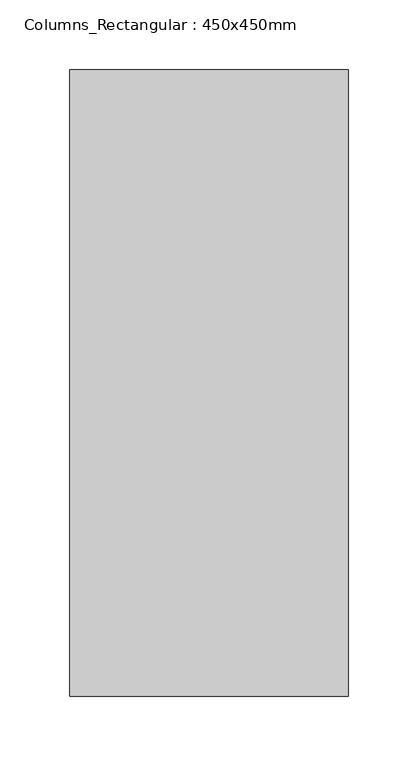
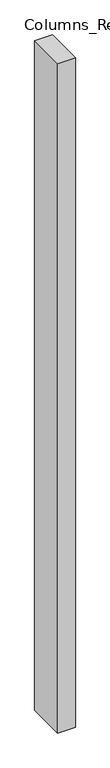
"""IFC4 building model written with IfcOpenShell, lengths in millimetres: column geometry, Columns_Rectangular : 450x450mm."""

from ifc_helpers import new_model, si_unit, frame, origin, place, context, project, spatial, polyline, outline, extrude, source, transform, mapped, element, save


def columns_rectangular_450x450mm_7ab9ced3(model_context):
    return source(origin(), model_context, "Body", "SweptSolid", [
        extrude(outline(polyline([(100.0, 225.0), (100.0, -225.0), (-100.0, -225.0), (-100.0, 225.0), (100.0, 225.0)])), frame((0.0, 0.0, 5800.0), z_axis=(0.0, 0.0, 1.0), x_axis=(1.0, 0.0, 0.0)), (0.0, 0.0, 1.0), 8000.0),
    ])


if __name__ == "__main__":
    model = new_model("IFC4")
    model_context = context("Model", 3, world=origin())
    ifc_project = project(units=[si_unit("LENGTHUNIT", "METRE", prefix="MILLI")], contexts=[model_context])
    site = spatial("IfcSite", under=ifc_project)
    building = spatial("IfcBuilding", under=site)
    placement = place(None, origin())
    columns_rectangular_450x450mm_shape = columns_rectangular_450x450mm_7ab9ced3(model_context)
    element("IfcColumn", 1, ObjectType="Columns_Rectangular : 450x450mm", at=placement, inside=building, context=model_context, shape_type="MappedRepresentation", body=[
        mapped(columns_rectangular_450x450mm_shape, transform((0.0, 0.0, 0.0), x_axis=(1.0, 0.0, 0.0), y_axis=(0.0, 1.0, 0.0), z_axis=(0.0, 0.0, 1.0))),
    ])
    save(model, "model.ifc")
